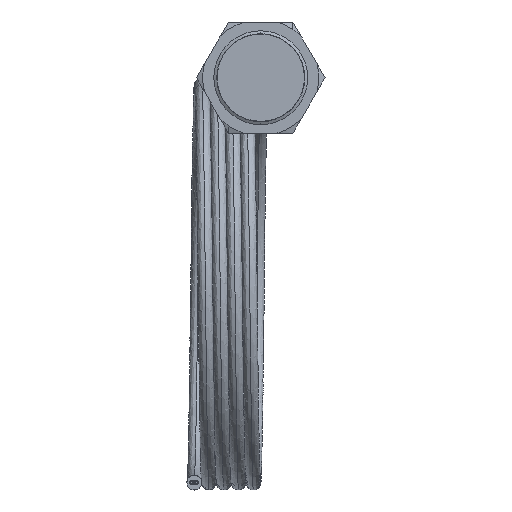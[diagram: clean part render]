
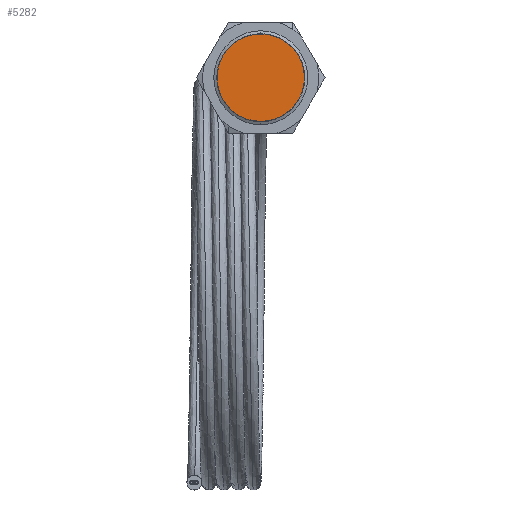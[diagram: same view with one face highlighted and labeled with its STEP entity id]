
A CAD part, left-side view. The second image highlights one B-rep face of the part: STEP entity #5282.
In plain terms, the highlighted planar face has unit normal (-1, 0, 0).
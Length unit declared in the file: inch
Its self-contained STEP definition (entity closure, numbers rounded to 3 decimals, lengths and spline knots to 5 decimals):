
#2562 = ORIENTED_EDGE ( 'NONE', *, *, #10425, .F. ) ;
#2946 = ORIENTED_EDGE ( 'NONE', *, *, #5673, .F. ) ;
#4564 = VERTEX_POINT ( 'NONE', #4978 ) ;
#4978 = CARTESIAN_POINT ( 'NONE',  ( 0., 0., 0.55 ) ) ;
#5041 = EDGE_LOOP ( 'NONE', ( #2946, #2562 ) ) ;
#5282 = ADVANCED_FACE ( 'NONE', ( #5438 ), #5439, .F. ) ;
#5438 = FACE_OUTER_BOUND ( 'NONE', #5041, .T. ) ;
#5439 = PLANE ( 'NONE',  #5440 ) ;
#5440 = AXIS2_PLACEMENT_3D ( 'NONE', #5441, #5444, #5445 ) ;
#5441 = CARTESIAN_POINT ( 'NONE',  ( 0., 0., 0. ) ) ;
#5444 = DIRECTION ( 'NONE',  ( 1., 0., 0. ) ) ;
#5445 = DIRECTION ( 'NONE',  ( 0., 0., -1. ) ) ;
#5673 = EDGE_CURVE ( 'NONE', #4564, #9459, #5685, .T. ) ;
#5685 = CIRCLE ( 'NONE', #5686, 0.55 ) ;
#5686 = AXIS2_PLACEMENT_3D ( 'NONE', #5687, #5688, #5689 ) ;
#5687 = CARTESIAN_POINT ( 'NONE',  ( 0., 0., 0. ) ) ;
#5688 = DIRECTION ( 'NONE',  ( 1., 0., 0. ) ) ;
#5689 = DIRECTION ( 'NONE',  ( 0., 0., 1. ) ) ;
#9459 = VERTEX_POINT ( 'NONE', #9509 ) ;
#9509 = CARTESIAN_POINT ( 'NONE',  ( 0., 0., -0.55 ) ) ;
#10064 = CIRCLE ( 'NONE', #10065, 0.55 ) ;
#10065 = AXIS2_PLACEMENT_3D ( 'NONE', #10066, #10067, #10068 ) ;
#10066 = CARTESIAN_POINT ( 'NONE',  ( 0., 0., 0. ) ) ;
#10067 = DIRECTION ( 'NONE',  ( 1., 0., 0. ) ) ;
#10068 = DIRECTION ( 'NONE',  ( 0., 0., 1. ) ) ;
#10425 = EDGE_CURVE ( 'NONE', #9459, #4564, #10064, .T. ) ;
